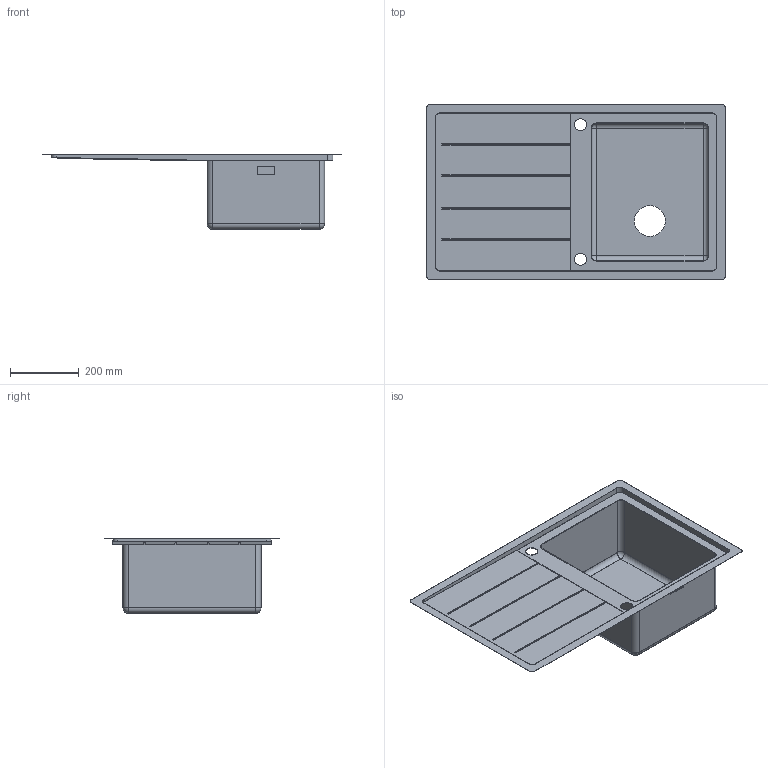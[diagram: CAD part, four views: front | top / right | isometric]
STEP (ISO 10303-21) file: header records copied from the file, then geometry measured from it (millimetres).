
FILE_DESCRIPTION(('CATIA V5 STEP Exchange'),'2;1');
FILE_NAME('C:\Users\linop\Desktop\LFT861D.stp','2018-05-24T12:05:55+00:00',('none'),('none'),'CATIA Version 5-6 Release 2014','CATIA V5 STEP AP203','none');
FILE_SCHEMA(('CONFIG_CONTROL_DESIGN'));
Length unit declared in the file: millimetre
Products named in the file (1): LFT861D
Bounding box: 870 x 510 x 217.8 mm (x, y, z)
Volume: 685127.4 mm3; surface area: 1513404.1 mm2
Topology: 2 solids, 2 shells, 101 faces, 266 edges, 164 vertices
Faces by surface type: plane 47, cylinder 46, sphere 8
Entity records: 3037 total; most frequent: CARTESIAN_POINT 604, ORIENTED_EDGE 516, DIRECTION 429, EDGE_CURVE 258, AXIS2_PLACEMENT_3D 172, VECTOR 166, LINE 166, VERTEX_POINT 164
